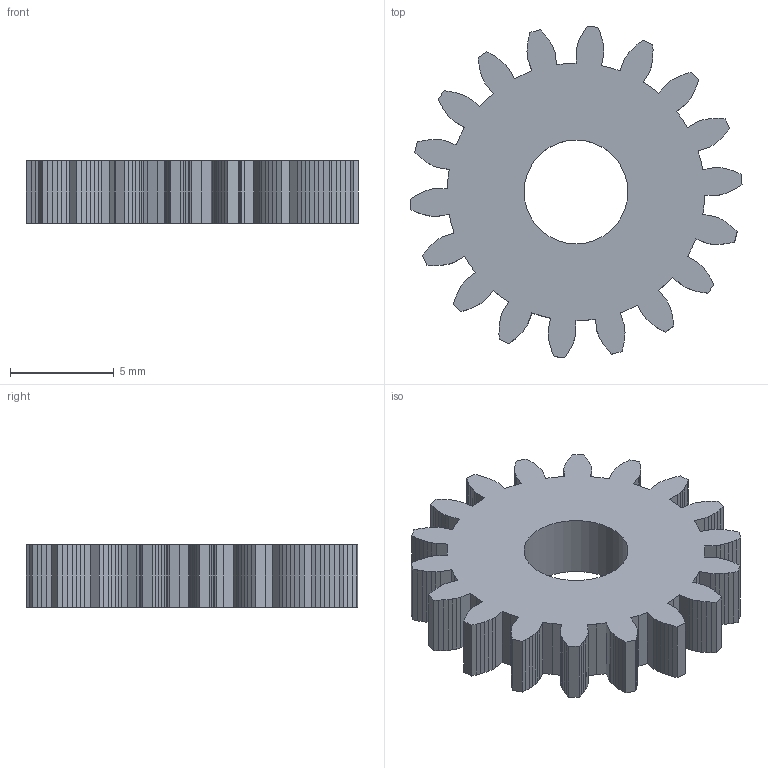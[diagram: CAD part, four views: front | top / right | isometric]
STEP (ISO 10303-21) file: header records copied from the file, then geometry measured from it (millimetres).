
FILE_DESCRIPTION(('Open CASCADE Model'),'2;1');
FILE_NAME('Open CASCADE Shape Model','2026-11-23T18:10:06',('Author'),( 'Open CASCADE'),'Open CASCADE STEP processor 8.0','build123d', 'Unknown');
FILE_SCHEMA(('AUTOMOTIVE_DESIGN { 1 0 10303 214 1 1 1 1 }'));
Length unit declared in the file: millimetre
Products named in the file (1): SOLID
Bounding box: 15.98 x 15.96 x 3 mm (x, y, z)
Volume: 411.8 mm3; surface area: 605.5 mm2
Topology: 1 solids, 1 shells, 309 faces, 921 edges, 614 vertices
Faces by surface type: plane 308, cylinder 1
Full cylindrical faces by diameter (mm): 5 x1
Entity records: 22144 total; most frequent: CARTESIAN_POINT 3687, DIRECTION 3385, LINE 2759, VECTOR 2759, ORIENTED_EDGE 1842, PCURVE 1842, DEFINITIONAL_REPRESENTATION 1842, EDGE_CURVE 921
